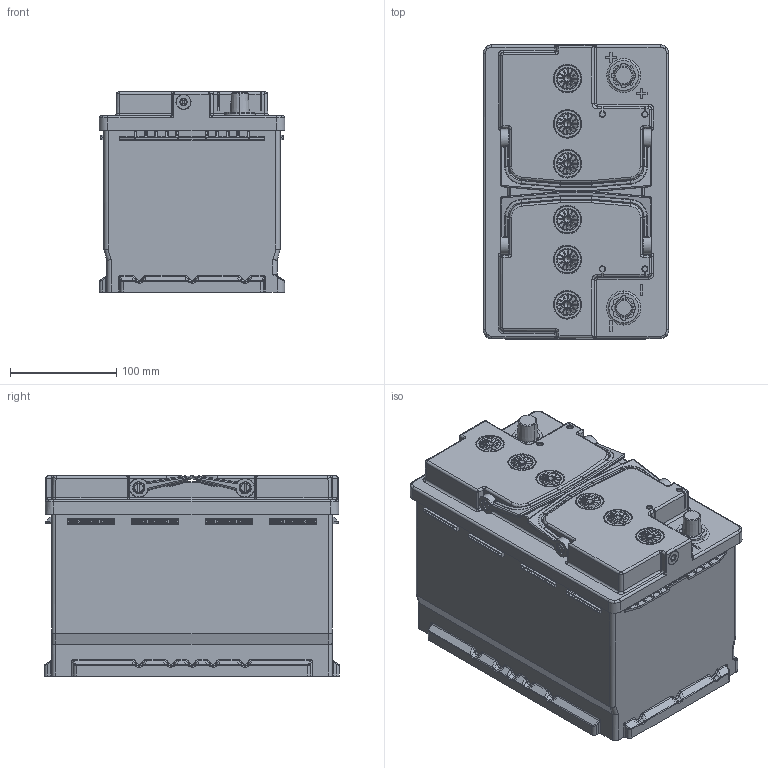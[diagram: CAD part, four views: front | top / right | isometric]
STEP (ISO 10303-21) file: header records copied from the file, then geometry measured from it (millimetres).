
FILE_DESCRIPTION(('CATIA V5 STEP Exchange'),'2;1');
FILE_NAME('G:\PE\KQ data\Groups\Engineering\Old documents\Yayong He\AGM drawing\AGM H6 3D.stp','2017-06-20T07:23:15+00:00',('none'),('none'),'CATIA Version 5 Release 20 GA (IN-10)','CATIA V5 STEP AP203','none');
FILE_SCHEMA(('CONFIG_CONTROL_DESIGN'));
Products named in the file (1): 30030203_C3K_000_01_AB
Bounding box: 174.8 x 277.7 x 188.52 mm (x, y, z)
Volume: 7987130.8 mm3; surface area: 331718.6 mm2
Topology: 1 solids, 1 shells, 5710 faces, 14840 edges, 9037 vertices
Faces by surface type: cylinder 1934, bspline 1536, plane 1344, sphere 446, cone 320, torus 130
Entity records: 211983 total; most frequent: CARTESIAN_POINT 98368, ORIENTED_EDGE 29032, DIRECTION 15685, EDGE_CURVE 14516, VERTEX_POINT 9037, AXIS2_PLACEMENT_3D 6250, EDGE_LOOP 5969, ADVANCED_FACE 5710
